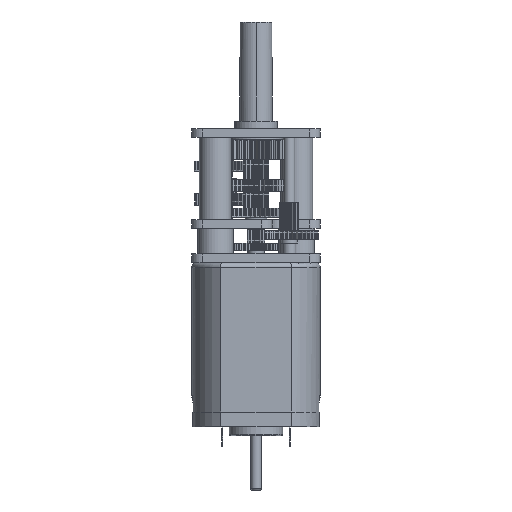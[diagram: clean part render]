
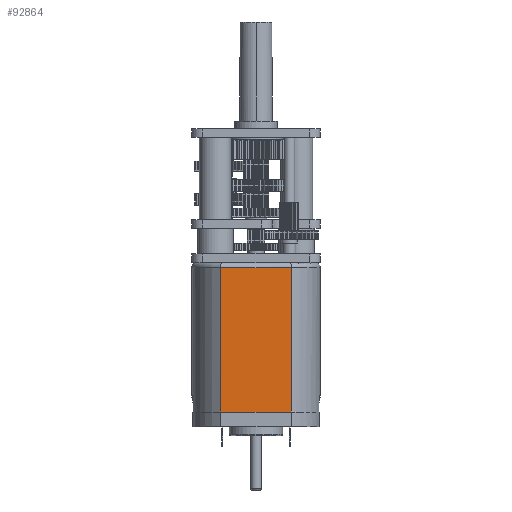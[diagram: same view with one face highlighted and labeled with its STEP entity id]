
A CAD part, front view. The second image highlights one B-rep face of the part: STEP entity #92864.
In plain terms, the highlighted planar face has unit normal (0, -1, 0).
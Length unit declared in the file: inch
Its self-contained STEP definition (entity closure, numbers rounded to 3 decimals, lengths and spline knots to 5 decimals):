
#5122 = CARTESIAN_POINT ( 'NONE',  ( 0.13058, -0.19685, -0.55118 ) ) ;
#15811 = VECTOR ( 'NONE', #45505, 39.37008 ) ;
#21722 = LINE ( 'NONE', #160721, #134462 ) ;
#26273 = EDGE_CURVE ( 'NONE', #131352, #100513, #21722, .T. ) ;
#27483 = CARTESIAN_POINT ( 'NONE',  ( 0., -0.19685, -0.55118 ) ) ;
#31748 = EDGE_CURVE ( 'NONE', #151034, #100513, #131527, .T. ) ;
#32397 = CARTESIAN_POINT ( 'NONE',  ( -0.13058, -0.19685, -0.55118 ) ) ;
#33667 = CARTESIAN_POINT ( 'NONE',  ( 0.13057, -0.19683, -0.55118 ) ) ;
#45505 = DIRECTION ( 'NONE',  ( 0., 0., 1. ) ) ;
#52259 = CARTESIAN_POINT ( 'NONE',  ( 0.13058, -0.19685, -0.01969 ) ) ;
#55915 = B_SPLINE_CURVE_WITH_KNOTS ( 'NONE', 3,
 ( #58225, #136349, #112898, #95897 ),
 .UNSPECIFIED., .F., .F.,
 ( 4, 4 ),
 ( 0., 1. ),
 .UNSPECIFIED. ) ;
#58225 = CARTESIAN_POINT ( 'NONE',  ( -0.13057, -0.19683, -0.55118 ) ) ;
#60663 = ORIENTED_EDGE ( 'NONE', *, *, #161123, .T. ) ;
#63023 = DIRECTION ( 'NONE',  ( -1., 0., 0. ) ) ;
#66273 = AXIS2_PLACEMENT_3D ( 'NONE', #27483, #173706, #105553 ) ;
#81407 = ORIENTED_EDGE ( 'NONE', *, *, #146873, .T. ) ;
#82544 = CARTESIAN_POINT ( 'NONE',  ( -0.13058, -0.19685, -0.01969 ) ) ;
#92864 = ADVANCED_FACE ( 'NONE', ( #132536 ), #115437, .T. ) ;
#95897 = CARTESIAN_POINT ( 'NONE',  ( 0.13057, -0.19683, -0.55118 ) ) ;
#100513 = VERTEX_POINT ( 'NONE', #82544 ) ;
#105553 = DIRECTION ( 'NONE',  ( 1., 0., 0. ) ) ;
#110989 = LINE ( 'NONE', #5122, #15811 ) ;
#112898 = CARTESIAN_POINT ( 'NONE',  ( 0.04353, -0.19685, -0.55118 ) ) ;
#115437 = PLANE ( 'NONE',  #66273 ) ;
#124944 = EDGE_LOOP ( 'NONE', ( #60663, #135700, #174734, #81407 ) ) ;
#131352 = VERTEX_POINT ( 'NONE', #52259 ) ;
#131527 = LINE ( 'NONE', #32397, #158406 ) ;
#132536 = FACE_OUTER_BOUND ( 'NONE', #124944, .T. ) ;
#134462 = VECTOR ( 'NONE', #63023, 39.37008 ) ;
#135700 = ORIENTED_EDGE ( 'NONE', *, *, #26273, .T. ) ;
#136349 = CARTESIAN_POINT ( 'NONE',  ( -0.04353, -0.19685, -0.55118 ) ) ;
#140479 = CARTESIAN_POINT ( 'NONE',  ( -0.13057, -0.19683, -0.55118 ) ) ;
#146873 = EDGE_CURVE ( 'NONE', #151034, #172832, #55915, .T. ) ;
#151034 = VERTEX_POINT ( 'NONE', #140479 ) ;
#158406 = VECTOR ( 'NONE', #166069, 39.37008 ) ;
#160721 = CARTESIAN_POINT ( 'NONE',  ( 0., -0.19685, -0.01969 ) ) ;
#161123 = EDGE_CURVE ( 'NONE', #172832, #131352, #110989, .T. ) ;
#166069 = DIRECTION ( 'NONE',  ( 0., 0., 1. ) ) ;
#172832 = VERTEX_POINT ( 'NONE', #33667 ) ;
#173706 = DIRECTION ( 'NONE',  ( 0., -1., 0. ) ) ;
#174734 = ORIENTED_EDGE ( 'NONE', *, *, #31748, .F. ) ;
